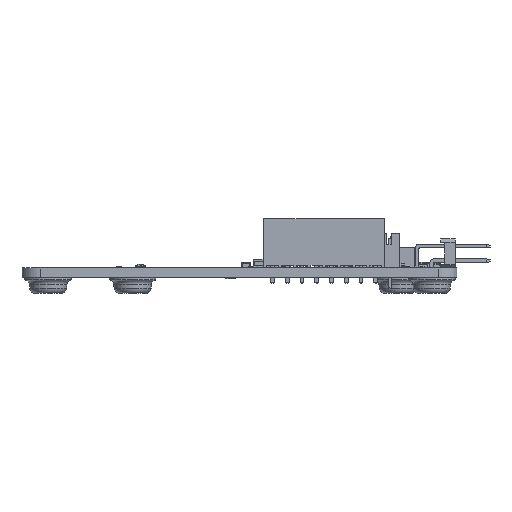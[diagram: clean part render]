
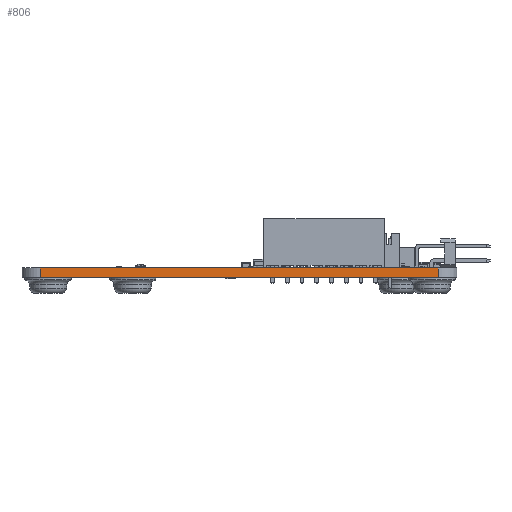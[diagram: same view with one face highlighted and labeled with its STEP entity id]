
A CAD part, front view. The second image highlights one B-rep face of the part: STEP entity #806.
In plain terms, the highlighted planar face has unit normal (0, -1, 0).
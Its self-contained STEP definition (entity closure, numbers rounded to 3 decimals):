
#256 = EDGE_CURVE('',#257,#259,#261,.T.);
#257 = VERTEX_POINT('',#258);
#258 = CARTESIAN_POINT('',(3.175,0.,-1.585));
#259 = VERTEX_POINT('',#260);
#260 = CARTESIAN_POINT('',(3.175,0.,0.));
#261 = LINE('',#262,#263);
#262 = CARTESIAN_POINT('',(3.175,0.,-1.585));
#263 = VECTOR('',#264,1.);
#264 = DIRECTION('',(0.,0.,1.));
#779 = VERTEX_POINT('',#780);
#780 = CARTESIAN_POINT('',(71.755,0.,0.)
  );
#787 = EDGE_CURVE('',#788,#779,#790,.T.);
#788 = VERTEX_POINT('',#789);
#789 = CARTESIAN_POINT('',(71.755,0.,-1.585)
  );
#790 = LINE('',#791,#792);
#791 = CARTESIAN_POINT('',(71.755,0.,-1.585)
  );
#792 = VECTOR('',#793,1.);
#793 = DIRECTION('',(0.,0.,1.));
#806 = ADVANCED_FACE('',(#807),#823,.T.);
#807 = FACE_BOUND('',#808,.T.);
#808 = EDGE_LOOP('',(#809,#810,#816,#817));
#809 = ORIENTED_EDGE('',*,*,#787,.T.);
#810 = ORIENTED_EDGE('',*,*,#811,.T.);
#811 = EDGE_CURVE('',#779,#259,#812,.T.);
#812 = LINE('',#813,#814);
#813 = CARTESIAN_POINT('',(71.755,0.,0.));
#814 = VECTOR('',#815,1.);
#815 = DIRECTION('',(-1.,0.,0.));
#816 = ORIENTED_EDGE('',*,*,#256,.F.);
#817 = ORIENTED_EDGE('',*,*,#818,.F.);
#818 = EDGE_CURVE('',#788,#257,#819,.T.);
#819 = LINE('',#820,#821);
#820 = CARTESIAN_POINT('',(71.755,0.,-1.585));
#821 = VECTOR('',#822,1.);
#822 = DIRECTION('',(-1.,0.,0.));
#823 = PLANE('',#824);
#824 = AXIS2_PLACEMENT_3D('',#825,#826,#827);
#825 = CARTESIAN_POINT('',(71.755,0.,-1.585));
#826 = DIRECTION('',(0.,-1.,0.));
#827 = DIRECTION('',(-1.,0.,0.));
